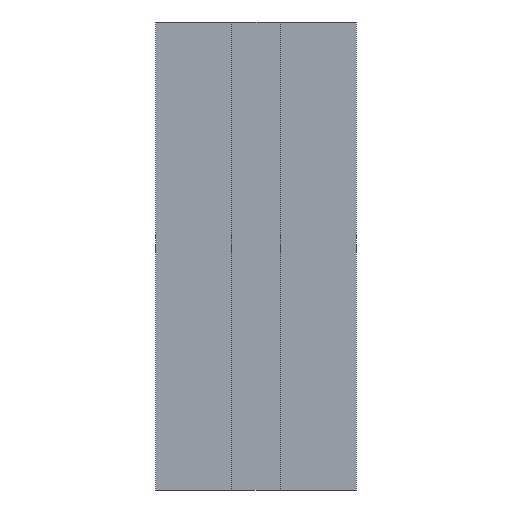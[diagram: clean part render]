
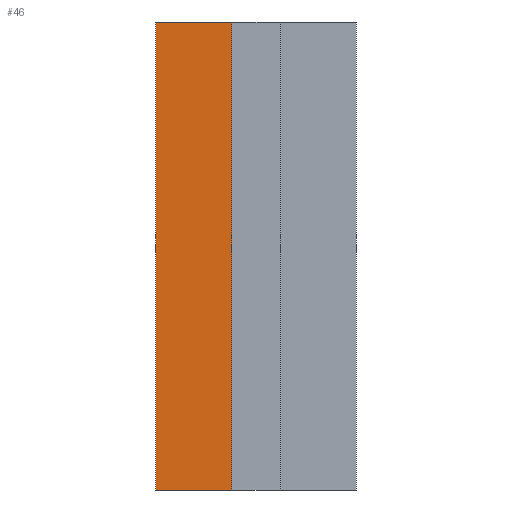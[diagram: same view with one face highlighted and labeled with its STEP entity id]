
A CAD part, front view. The second image highlights one B-rep face of the part: STEP entity #46.
In plain terms, the highlighted planar face has unit normal (0, -1, 0).
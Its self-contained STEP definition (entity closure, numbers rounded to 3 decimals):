
#9 = ORIENTED_EDGE ( 'NONE', *, *, #28, .T. ) ;
#25 = EDGE_CURVE ( 'NONE', #26, #51, #272, .T. ) ;
#26 = VERTEX_POINT ( 'NONE', #268 ) ;
#27 = ORIENTED_EDGE ( 'NONE', *, *, #25, .T. ) ;
#28 = EDGE_CURVE ( 'NONE', #54, #26, #267, .T. ) ;
#46 = ADVANCED_FACE ( 'NONE', ( #170 ), #169, .T. ) ;
#47 = EDGE_LOOP ( 'NONE', ( #48, #52, #9, #27 ) ) ;
#48 = ORIENTED_EDGE ( 'NONE', *, *, #49, .F. ) ;
#49 = EDGE_CURVE ( 'NONE', #50, #51, #164, .T. ) ;
#50 = VERTEX_POINT ( 'NONE', #160 ) ;
#51 = VERTEX_POINT ( 'NONE', #159 ) ;
#52 = ORIENTED_EDGE ( 'NONE', *, *, #53, .T. ) ;
#53 = EDGE_CURVE ( 'NONE', #50, #54, #158, .T. ) ;
#54 = VERTEX_POINT ( 'NONE', #154 ) ;
#154 = CARTESIAN_POINT ( 'NONE',  ( -20., -40., 1138. ) ) ;
#155 = DIRECTION ( 'NONE',  ( -1., 0., 0. ) ) ;
#156 = VECTOR ( 'NONE', #155, 1000. ) ;
#157 = CARTESIAN_POINT ( 'NONE',  ( -20., -40., 1138. ) ) ;
#158 = LINE ( 'NONE', #157, #156 ) ;
#159 = CARTESIAN_POINT ( 'NONE',  ( 168.5, -40., -20. ) ) ;
#160 = CARTESIAN_POINT ( 'NONE',  ( 168.5, -40., 1138. ) ) ;
#161 = DIRECTION ( 'NONE',  ( 0., 0., -1. ) ) ;
#162 = VECTOR ( 'NONE', #161, 1000. ) ;
#163 = CARTESIAN_POINT ( 'NONE',  ( 168.5, -40., 1138. ) ) ;
#164 = LINE ( 'NONE', #163, #162 ) ;
#165 = DIRECTION ( 'NONE',  ( 0., 0., -1. ) ) ;
#166 = DIRECTION ( 'NONE',  ( 0., -1., 0. ) ) ;
#167 = CARTESIAN_POINT ( 'NONE',  ( -20., -40., -20. ) ) ;
#168 = AXIS2_PLACEMENT_3D ( 'NONE', #167, #166, #165 ) ;
#169 = PLANE ( 'NONE',  #168 ) ;
#170 = FACE_OUTER_BOUND ( 'NONE', #47, .T. ) ;
#264 = DIRECTION ( 'NONE',  ( 0., 0., -1. ) ) ;
#265 = VECTOR ( 'NONE', #264, 1000. ) ;
#266 = CARTESIAN_POINT ( 'NONE',  ( -20., -40., 1138. ) ) ;
#267 = LINE ( 'NONE', #266, #265 ) ;
#268 = CARTESIAN_POINT ( 'NONE',  ( -20., -40., -20. ) ) ;
#269 = DIRECTION ( 'NONE',  ( 1., 0., 0. ) ) ;
#270 = VECTOR ( 'NONE', #269, 1000. ) ;
#271 = CARTESIAN_POINT ( 'NONE',  ( -20., -40., -20. ) ) ;
#272 = LINE ( 'NONE', #271, #270 ) ;
